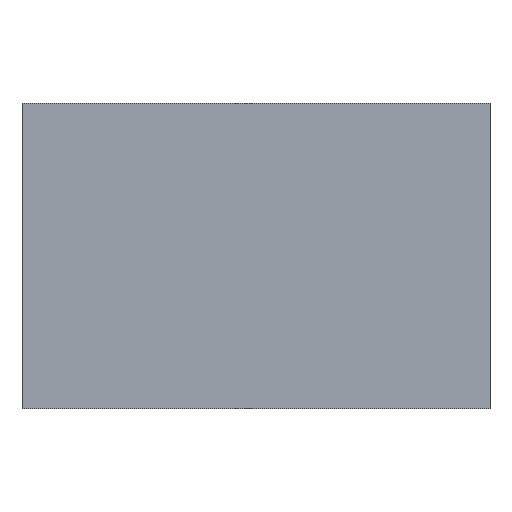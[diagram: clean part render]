
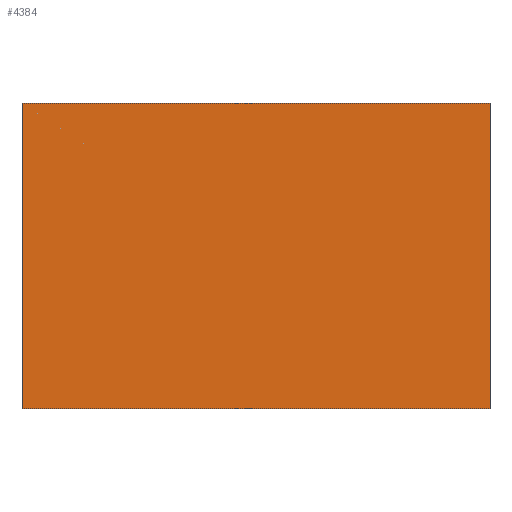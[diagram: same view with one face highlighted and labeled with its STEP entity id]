
A CAD part, left-side view. The second image highlights one B-rep face of the part: STEP entity #4384.
In plain terms, the highlighted planar face has unit normal (-1, 0, 0).
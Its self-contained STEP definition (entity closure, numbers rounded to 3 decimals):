
#661 = AXIS2_PLACEMENT_3D ( 'NONE', #5377, #5375, #5374 ) ;
#721 = EDGE_CURVE ( 'NONE', #3478, #3470, #4025, .T. ) ;
#722 = EDGE_CURVE ( 'NONE', #3478, #3465, #4027, .T. ) ;
#723 = EDGE_CURVE ( 'NONE', #3465, #3464, #4021, .T. ) ;
#724 = EDGE_CURVE ( 'NONE', #3464, #3470, #4031, .T. ) ;
#1330 = EDGE_LOOP ( 'NONE', ( #3832, #3831, #3830, #3829 ) ) ;
#1892 = DIRECTION ( 'NONE',  ( 0., 0., 1. ) ) ;
#1894 = CARTESIAN_POINT ( 'NONE',  ( -421.5, -0.5, 0. ) ) ;
#1897 = DIRECTION ( 'NONE',  ( 0., -1., 0. ) ) ;
#1898 = DIRECTION ( 'NONE',  ( 0., 0., -1. ) ) ;
#1903 = CARTESIAN_POINT ( 'NONE',  ( -421.5, 114.5, 0. ) ) ;
#1904 = DIRECTION ( 'NONE',  ( 0., -1., 0. ) ) ;
#1905 = CARTESIAN_POINT ( 'NONE',  ( -421.5, 0., 75. ) ) ;
#1915 = CARTESIAN_POINT ( 'NONE',  ( -421.5, 0., 0. ) ) ;
#2440 = PLANE ( 'NONE',  #661 ) ;
#3464 = VERTEX_POINT ( 'NONE', #5053 ) ;
#3465 = VERTEX_POINT ( 'NONE', #5048 ) ;
#3470 = VERTEX_POINT ( 'NONE', #5038 ) ;
#3478 = VERTEX_POINT ( 'NONE', #5022 ) ;
#3829 = ORIENTED_EDGE ( 'NONE', *, *, #724, .T. ) ;
#3830 = ORIENTED_EDGE ( 'NONE', *, *, #723, .T. ) ;
#3831 = ORIENTED_EDGE ( 'NONE', *, *, #722, .T. ) ;
#3832 = ORIENTED_EDGE ( 'NONE', *, *, #721, .F. ) ;
#4021 = LINE ( 'NONE', #1915, #4032 ) ;
#4025 = LINE ( 'NONE', #1905, #4028 ) ;
#4027 = LINE ( 'NONE', #1903, #4030 ) ;
#4028 = VECTOR ( 'NONE', #1904, 1000. ) ;
#4030 = VECTOR ( 'NONE', #1898, 1000. ) ;
#4031 = LINE ( 'NONE', #1894, #4034 ) ;
#4032 = VECTOR ( 'NONE', #1897, 1000. ) ;
#4034 = VECTOR ( 'NONE', #1892, 1000. ) ;
#4384 = ADVANCED_FACE ( 'NONE', ( #4671 ), #2440, .T. ) ;
#4671 = FACE_OUTER_BOUND ( 'NONE', #1330, .T. ) ;
#5022 = CARTESIAN_POINT ( 'NONE',  ( -421.5, 114.5, 75. ) ) ;
#5038 = CARTESIAN_POINT ( 'NONE',  ( -421.5, -0.5, 75. ) ) ;
#5048 = CARTESIAN_POINT ( 'NONE',  ( -421.5, 114.5, 0. ) ) ;
#5053 = CARTESIAN_POINT ( 'NONE',  ( -421.5, -0.5, 0. ) ) ;
#5374 = DIRECTION ( 'NONE',  ( 0., 0., 1. ) ) ;
#5375 = DIRECTION ( 'NONE',  ( -1., 0., 0. ) ) ;
#5377 = CARTESIAN_POINT ( 'NONE',  ( -421.5, 0., 0. ) ) ;
